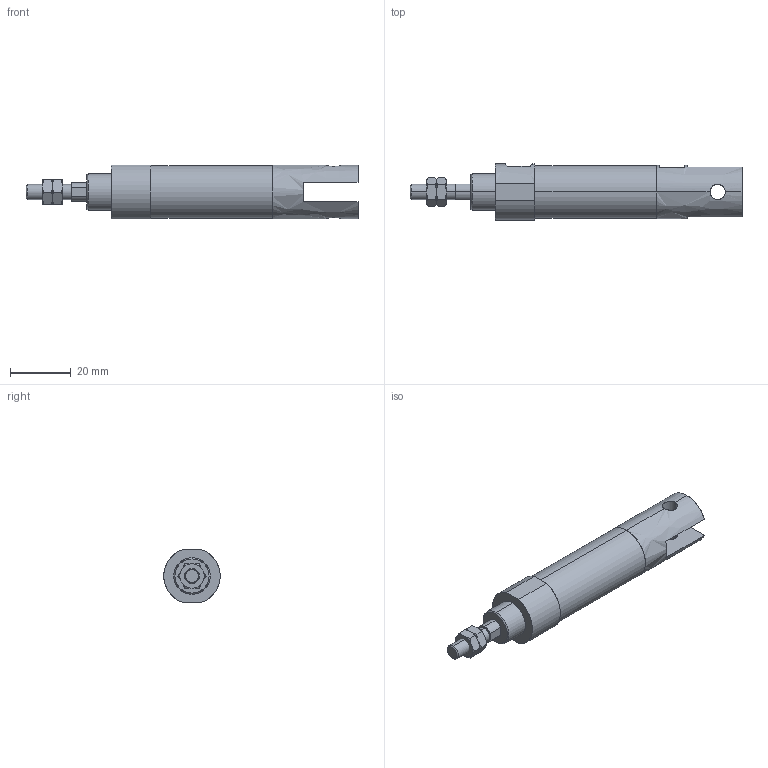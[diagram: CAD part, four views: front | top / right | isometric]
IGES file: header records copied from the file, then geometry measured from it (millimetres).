
Start section: SolidWorks IGES file using analytic representation for surfaces
Global section: file name: C:\Users\Toshiba\Desktop\ZGU2-16-15-W.IGS; native system: SolidWorks 2014; preprocessor: SolidWorks 2014; author: Toshiba; date: 160331.085801; units: millimetre
Bounding box: 109 x 18.5 x 17.6 mm (x, y, z)
Surface area: 6699.8 mm2 (no closed solid volume)
Topology: 0 solids, 0 shells, 94 faces, 1450 edges, 1446 vertices
Faces by surface type: bspline 61, revolution 33
